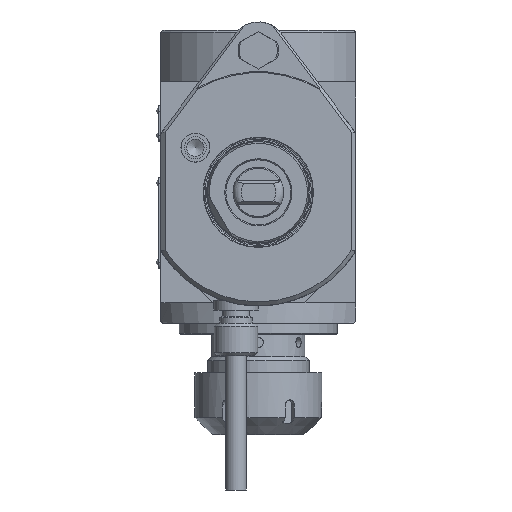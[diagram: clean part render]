
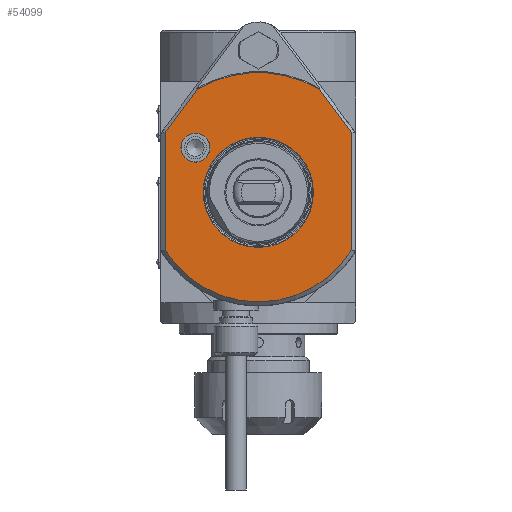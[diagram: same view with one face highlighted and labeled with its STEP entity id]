
A CAD part, left-side view. The second image highlights one B-rep face of the part: STEP entity #54099.
In plain terms, the highlighted planar face has unit normal (-1, 0, 0).
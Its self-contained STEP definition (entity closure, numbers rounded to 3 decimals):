
#21864=VECTOR('',#34518,1.);
#21865=VECTOR('',#34521,1.);
#21868=VECTOR('',#34534,1.);
#21869=VECTOR('',#34535,1.);
#22892=LINE('',#44794,#21864);
#22893=LINE('',#44797,#21865);
#22896=LINE('',#44811,#21868);
#22897=LINE('',#44813,#21869);
#25054=ORIENTED_EDGE('',*,*,#29791,.F.);
#25055=ORIENTED_EDGE('',*,*,#29798,.F.);
#25056=ORIENTED_EDGE('',*,*,#29799,.F.);
#25057=ORIENTED_EDGE('',*,*,#29800,.F.);
#25058=ORIENTED_EDGE('',*,*,#29801,.F.);
#25059=ORIENTED_EDGE('',*,*,#29792,.F.);
#25060=ORIENTED_EDGE('',*,*,#29802,.F.);
#25061=ORIENTED_EDGE('',*,*,#29803,.T.);
#27570=CIRCLE('',#52479,54.);
#27571=CIRCLE('',#52480,59.);
#27572=CIRCLE('',#52481,7.135);
#27573=CIRCLE('',#52482,27.15);
#28332=VERTEX_POINT('',#44789);
#28333=VERTEX_POINT('',#44792);
#28334=VERTEX_POINT('',#44796);
#28339=VERTEX_POINT('',#44808);
#28340=VERTEX_POINT('',#44810);
#28341=VERTEX_POINT('',#44812);
#28342=VERTEX_POINT('',#44815);
#28343=VERTEX_POINT('',#44817);
#29791=EDGE_CURVE('',#28333,#28332,#22892,.T.);
#29792=EDGE_CURVE('',#28332,#28334,#22893,.T.);
#29798=EDGE_CURVE('',#28339,#28333,#27570,.T.);
#29799=EDGE_CURVE('',#28340,#28339,#22896,.T.);
#29800=EDGE_CURVE('',#28341,#28340,#22897,.T.);
#29801=EDGE_CURVE('',#28334,#28341,#27571,.T.);
#29802=EDGE_CURVE('',#28342,#28342,#27572,.T.);
#29803=EDGE_CURVE('',#28343,#28343,#27573,.T.);
#31311=EDGE_LOOP('',(#25054,#25055,#25056,#25057,#25058,#25059));
#31312=EDGE_LOOP('',(#25060));
#31313=EDGE_LOOP('',(#25061));
#32397=FACE_BOUND('',#31311,.T.);
#32398=FACE_BOUND('',#31312,.T.);
#32399=FACE_BOUND('',#31313,.T.);
#34518=DIRECTION('',(0.,0.,57.784));
#34521=DIRECTION('',(0.,-15.96,21.28));
#34530=DIRECTION('',(-1.,0.,0.));
#34531=DIRECTION('',(0.,1.,0.));
#34532=DIRECTION('',(1.,0.,0.));
#34533=DIRECTION('',(0.,-46.,-28.284));
#34534=DIRECTION('',(0.,0.,-57.784));
#34535=DIRECTION('',(0.,-15.96,-21.28));
#34536=DIRECTION('',(1.,0.,0.));
#34537=DIRECTION('',(0.,30.04,50.78));
#34538=DIRECTION('',(-1.,0.,0.));
#34539=DIRECTION('',(0.,7.135,0.));
#34540=DIRECTION('',(1.,0.,0.));
#34541=DIRECTION('',(0.,-27.15,0.));
#44789=CARTESIAN_POINT('',(0.,46.,29.5));
#44792=CARTESIAN_POINT('',(0.,46.,-28.284));
#44794=CARTESIAN_POINT('',(0.,46.,-28.284));
#44796=CARTESIAN_POINT('',(0.,30.04,50.78));
#44797=CARTESIAN_POINT('',(0.,46.,29.5));
#44807=CARTESIAN_POINT('',(0.,44.8,33.6));
#44808=CARTESIAN_POINT('',(0.,-46.,-28.284));
#44809=CARTESIAN_POINT('',(0.,0.,0.));
#44810=CARTESIAN_POINT('',(0.,-46.,29.5));
#44811=CARTESIAN_POINT('',(0.,-46.,29.5));
#44812=CARTESIAN_POINT('',(0.,-30.04,50.78));
#44813=CARTESIAN_POINT('',(0.,-30.04,50.78));
#44814=CARTESIAN_POINT('',(0.,0.,0.));
#44815=CARTESIAN_POINT('',(0.,38.135,22.));
#44816=CARTESIAN_POINT('',(0.,31.,22.));
#44817=CARTESIAN_POINT('',(0.,-27.15,0.));
#44818=CARTESIAN_POINT('',(0.,0.,0.));
#52478=AXIS2_PLACEMENT_3D('',#44807,#34530,#34531);
#52479=AXIS2_PLACEMENT_3D('',#44809,#34532,#34533);
#52480=AXIS2_PLACEMENT_3D('',#44814,#34536,#34537);
#52481=AXIS2_PLACEMENT_3D('',#44816,#34538,#34539);
#52482=AXIS2_PLACEMENT_3D('',#44818,#34540,#34541);
#53509=PLANE('',#52478);
#54099=ADVANCED_FACE('',(#32397,#32398,#32399),#53509,.T.);
